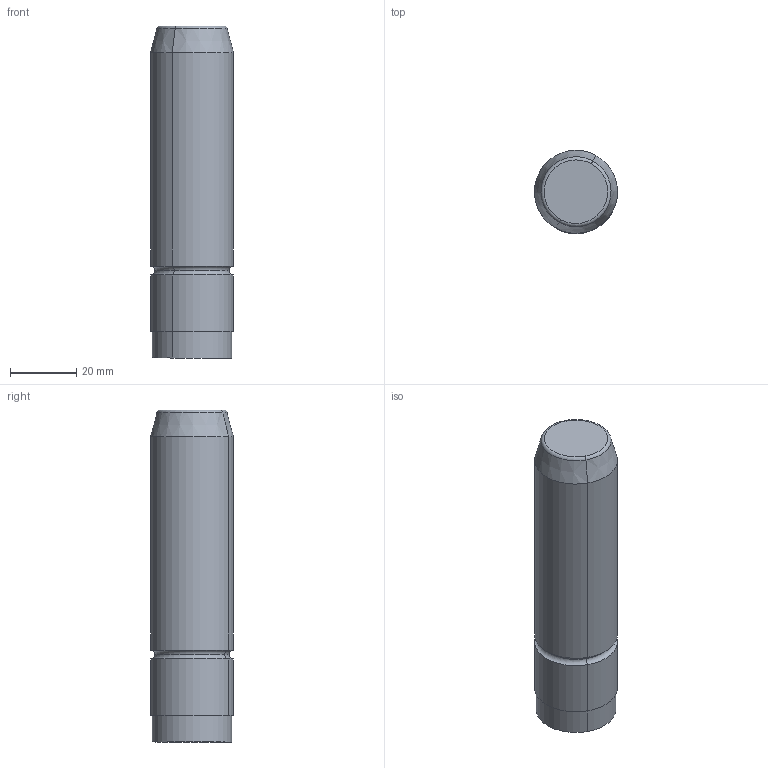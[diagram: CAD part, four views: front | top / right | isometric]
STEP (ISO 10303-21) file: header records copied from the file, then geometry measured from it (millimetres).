
FILE_DESCRIPTION(('CATIA V5 STEP Exchange'),'2;1');
FILE_NAME('C:\Users\Utente\Desktop\IO LAVORO\3D X SITO CF\X SITO\M104\M104-25x100.stp','2020-12-26T21:39:38+00:00',('none'),('none'),'CATIA Version 5 Release 20 GA (IN-10)','CATIA V5 STEP AP203','none');
FILE_SCHEMA(('CONFIG_CONTROL_DESIGN'));
Length unit declared in the file: millimetre
Products named in the file (1): M104-25x100
Bounding box: 24.99 x 24.99 x 100 mm (x, y, z)
Volume: 47922.8 mm3; surface area: 8706.2 mm2
Topology: 1 solids, 1 shells, 17 faces, 32 edges, 18 vertices
Faces by surface type: cylinder 6, torus 6, plane 3, cone 2
Entity records: 438 total; most frequent: CARTESIAN_POINT 66, ORIENTED_EDGE 64, DIRECTION 62, AXIS2_PLACEMENT_3D 40, EDGE_CURVE 32, CIRCLE 24, EDGE_LOOP 18, VERTEX_POINT 18
